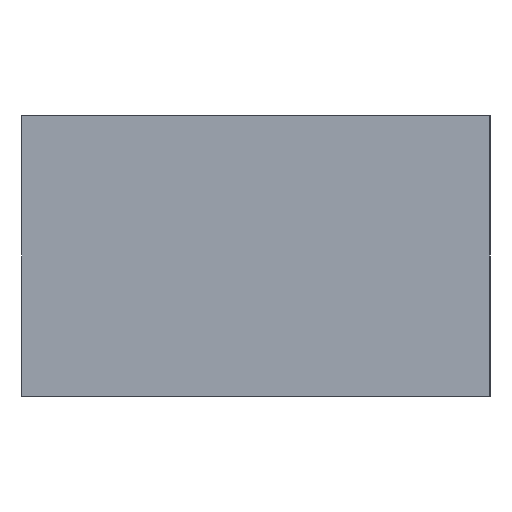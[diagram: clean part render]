
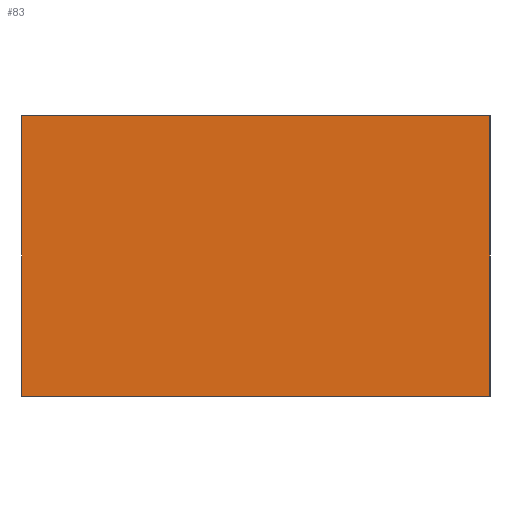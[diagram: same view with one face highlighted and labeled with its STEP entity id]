
A CAD part, left-side view. The second image highlights one B-rep face of the part: STEP entity #83.
In plain terms, the highlighted planar face has unit normal (-1, 0, 0).
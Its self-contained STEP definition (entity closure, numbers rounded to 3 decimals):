
#45=PLANE('',#248);
#53=FACE_OUTER_BOUND('',#125,.T.);
#57=LINE('',#340,#69);
#62=LINE('',#350,#74);
#64=LINE('',#354,#76);
#65=LINE('',#355,#77);
#69=VECTOR('',#279,1.);
#74=VECTOR('',#288,1.);
#76=VECTOR('',#292,1.);
#77=VECTOR('',#293,1.);
#83=ADVANCED_FACE('',(#53),#45,.F.);
#125=EDGE_LOOP('',(#160,#161,#162,#163));
#160=ORIENTED_EDGE('',*,*,#220,.F.);
#161=ORIENTED_EDGE('',*,*,#213,.F.);
#162=ORIENTED_EDGE('',*,*,#221,.T.);
#163=ORIENTED_EDGE('',*,*,#218,.T.);
#193=VERTEX_POINT('',#335);
#195=VERTEX_POINT('',#339);
#198=VERTEX_POINT('',#349);
#199=VERTEX_POINT('',#351);
#213=EDGE_CURVE('',#195,#193,#57,.T.);
#218=EDGE_CURVE('',#199,#198,#62,.T.);
#220=EDGE_CURVE('',#193,#198,#64,.T.);
#221=EDGE_CURVE('',#195,#199,#65,.T.);
#248=AXIS2_PLACEMENT_3D('',#356,#294,#295);
#279=DIRECTION('',(0.,0.,1.));
#288=DIRECTION('',(0.,0.,1.));
#292=DIRECTION('',(0.,-1.,0.));
#293=DIRECTION('',(0.,-1.,0.));
#294=DIRECTION('',(1.,0.,0.));
#295=DIRECTION('',(0.,0.,-1.));
#335=CARTESIAN_POINT('',(0.,30.,0.));
#339=CARTESIAN_POINT('',(0.,30.,-18.));
#340=CARTESIAN_POINT('',(0.,30.,-18.));
#349=CARTESIAN_POINT('',(0.,0.,0.));
#350=CARTESIAN_POINT('',(0.,0.,-18.));
#351=CARTESIAN_POINT('',(0.,0.,-18.));
#354=CARTESIAN_POINT('',(0.,0.,0.));
#355=CARTESIAN_POINT('',(0.,0.,-18.));
#356=CARTESIAN_POINT('',(0.,0.,-18.));
